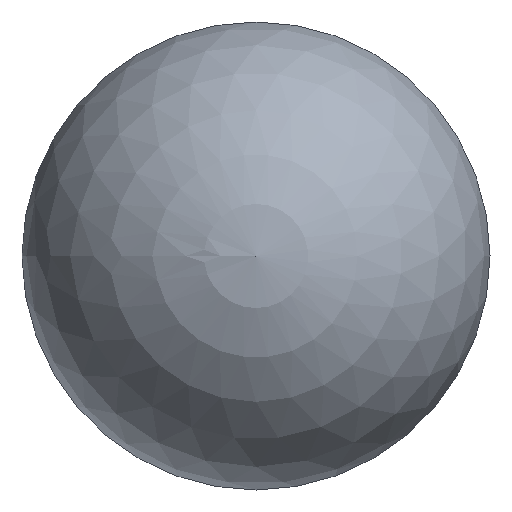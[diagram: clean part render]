
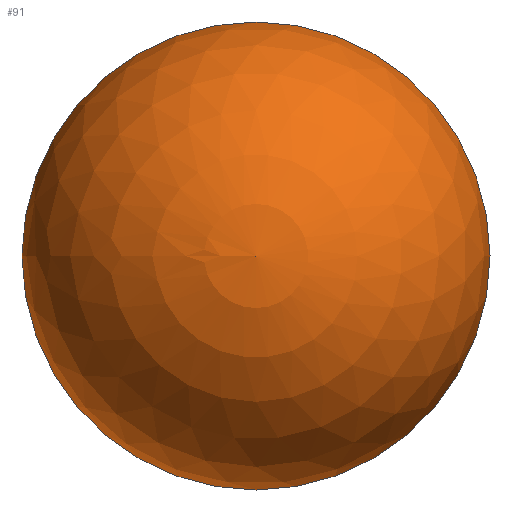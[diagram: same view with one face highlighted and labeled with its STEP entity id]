
A CAD part, left-side view. The second image highlights one B-rep face of the part: STEP entity #91.
In plain terms, the highlighted spherical face has radius 8.3 mm.
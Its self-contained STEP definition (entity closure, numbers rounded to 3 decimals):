
#27=ORIENTED_EDGE('',*,*,#41,.F.);
#41=EDGE_CURVE('',#48,#48,#55,.T.);
#48=VERTEX_POINT('',#162);
#55=CIRCLE('',#113,8.3);
#62=EDGE_LOOP('',(#27));
#76=FACE_BOUND('',#62,.T.);
#90=SPHERICAL_SURFACE('',#112,8.3);
#91=ADVANCED_FACE('',(#76),#90,.T.);
#112=AXIS2_PLACEMENT_3D('',#160,#129,#130);
#113=AXIS2_PLACEMENT_3D('',#161,#131,#132);
#129=DIRECTION('',(1.,0.,0.));
#130=DIRECTION('',(0.,1.,0.));
#131=DIRECTION('',(1.,0.,0.));
#132=DIRECTION('',(0.,1.,0.));
#160=CARTESIAN_POINT('',(8.3,0.,0.));
#161=CARTESIAN_POINT('',(8.3,0.,0.));
#162=CARTESIAN_POINT('',(8.3,8.3,0.));
